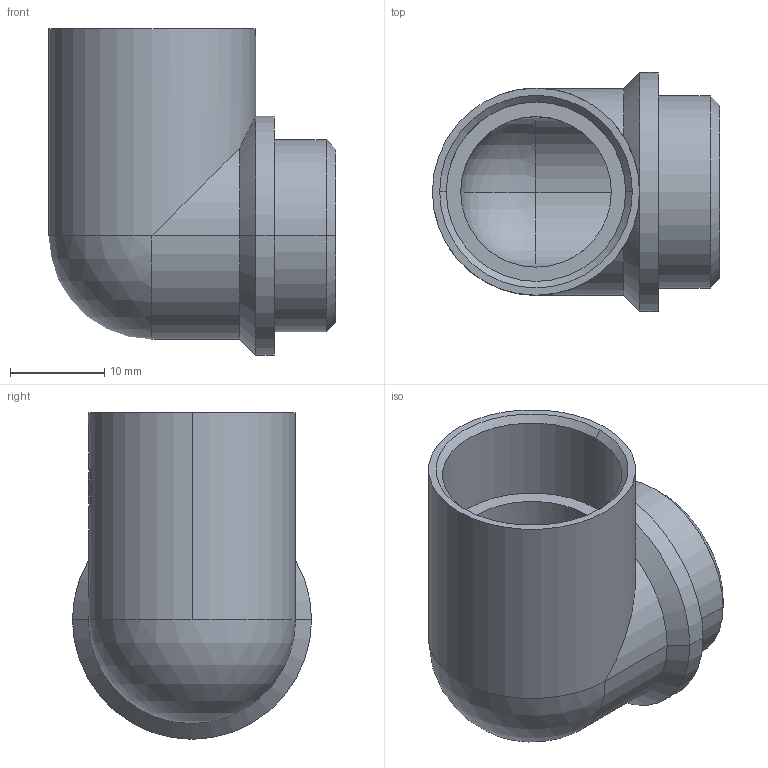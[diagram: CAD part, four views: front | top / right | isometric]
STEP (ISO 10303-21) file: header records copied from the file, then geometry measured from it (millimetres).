
FILE_DESCRIPTION (( 'STEP AP203' ), '1' );
FILE_NAME ('21.013.STEP', '2006-11-06T08:53:36', ( ' ' ), ( '' ), 'SwSTEP 2.0', 'SolidWorks 2005278', '' );
FILE_SCHEMA (( 'CONFIG_CONTROL_DESIGN' ));
Length unit declared in the file: millimetre
Products named in the file (1): 21.013
Bounding box: 30.5 x 25.4 x 34.7 mm (x, y, z)
Volume: 6326.5 mm3; surface area: 5347 mm2
Topology: 1 solids, 1 shells, 66 faces, 166 edges, 104 vertices
Faces by surface type: plane 38, cylinder 18, cone 7, sphere 3
Entity records: 2071 total; most frequent: CARTESIAN_POINT 432, DIRECTION 330, ORIENTED_EDGE 324, EDGE_CURVE 162, AXIS2_PLACEMENT_3D 127, VERTEX_POINT 103, LINE 76, VECTOR 76
